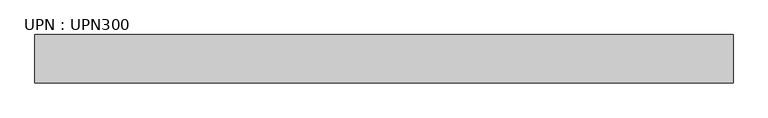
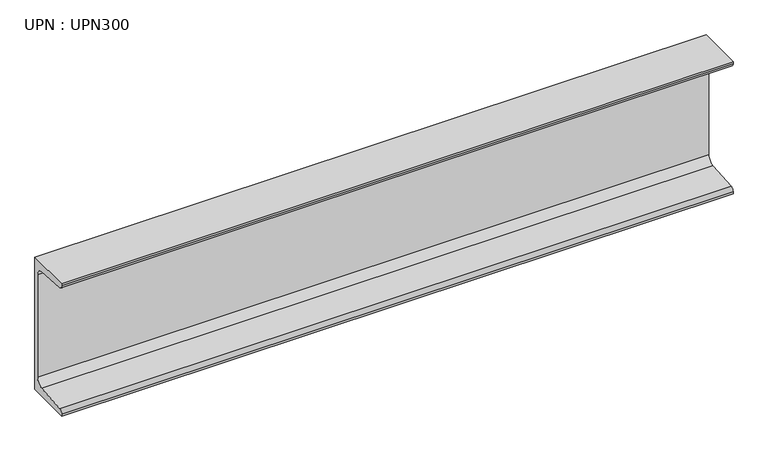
"""IFC4 building model written with IfcOpenShell, lengths in millimetres: beam geometry, UPN : UPN300."""

import ifcopenshell
import ifcopenshell.guid

model = None  # the IFC model being written
_history = None  # IfcOwnerHistory: only IFC2X3 demands one
_inside = {}  # id of a spatial element -> (the spatial element, [elements in it])
_under = {}  # id of a project, library or spatial element -> (it, [spatial elements below it])
_declared = {}  # id of a project -> (the project, [libraries it declares])
_typed = {}  # id of a type object -> (the type object, [elements of that type])
_made_of = {}  # id of a material, layer set ... -> (it, [elements and type objects made of it])


def new_model(schema):
    """Start an empty IFC model of exactly this schema.

    Asked for "IFC4X3", IfcOpenShell would pick the latest addendum, in which some entities
    have other attributes; the version numbers below select the first issue.
    IFC2X3 requires an IfcOwnerHistory on every rooted entity: one is made here for all.
    """
    global model, _history
    if schema == "IFC4X3":
        model = ifcopenshell.file(schema_version=(4, 3, 0, 0))
    else:
        model = ifcopenshell.file(schema=schema)
    _inside.clear()
    _under.clear()
    _declared.clear()
    _typed.clear()
    _made_of.clear()
    _history = None
    if model.schema == "IFC2X3":
        org = make("IfcOrganization", Name="unknown")
        user = make(
            "IfcPersonAndOrganization",
            ThePerson=make("IfcPerson", FamilyName="unknown"),
            TheOrganization=org,
        )
        app = make(
            "IfcApplication",
            ApplicationDeveloper=org,
            Version="unknown",
            ApplicationFullName="unknown",
            ApplicationIdentifier="unknown",
        )
        _history = make(
            "IfcOwnerHistory",
            OwningUser=user,
            OwningApplication=app,
            ChangeAction="ADDED",
            CreationDate=0,
        )
    return model


def make(cls, **values):
    """One entity of the class cls with the attributes given. An attribute that is None is left unset."""
    return model.create_entity(
        cls, **{name: value for name, value in values.items() if value is not None}
    )


def rooted(cls, **values):
    """An entity with a GlobalId (a new one), such as an element, a storey or a relation."""
    return make(cls, GlobalId=ifcopenshell.guid.new(), OwnerHistory=_history, **values)


def si_unit(unit_type, name, prefix=None):
    """IfcSIUnit, for example si_unit("LENGTHUNIT", "METRE", prefix="MILLI")."""
    return make("IfcSIUnit", UnitType=unit_type, Prefix=prefix, Name=name)


def assignment(units):
    """IfcUnitAssignment: the units of a project."""
    return None if units is None else make("IfcUnitAssignment", Units=units)


def point(xyz):
    """IfcCartesianPoint."""
    return None if xyz is None else make("IfcCartesianPoint", Coordinates=xyz)


def direction(xyz):
    """IfcDirection."""
    return None if xyz is None else make("IfcDirection", DirectionRatios=xyz)


def frame(location, z_axis=None, x_axis=None):
    """IfcAxis2Placement3D, a coordinate frame: its origin and axes. An axis left out is left unset."""
    return make(
        "IfcAxis2Placement3D",
        Location=point(location),
        Axis=direction(z_axis),
        RefDirection=direction(x_axis),
    )


def frame_2d(location, x_axis=None):
    """IfcAxis2Placement2D, a coordinate frame in the plane: its origin and x axis."""
    return make(
        "IfcAxis2Placement2D", Location=point(location), RefDirection=direction(x_axis)
    )


def origin():
    """The frame at (0, 0, 0) with its axes left unset."""
    return frame((0.0, 0.0, 0.0))


def place(relative_to, where):
    """IfcLocalPlacement: puts the frame where relative to a parent placement (None: the world)."""
    return make(
        "IfcLocalPlacement", PlacementRelTo=relative_to, RelativePlacement=where
    )


def context(
    kind, dimensions, precision=None, world=None, true_north=None, identifier=None
):
    """IfcGeometricRepresentationContext, for example the 3D "Model" context."""
    return make(
        "IfcGeometricRepresentationContext",
        ContextIdentifier=identifier,
        ContextType=kind,
        CoordinateSpaceDimension=dimensions,
        Precision=precision,
        WorldCoordinateSystem=world,
        TrueNorth=true_north,
    )


def project(units=None, contexts=None):
    """IfcProject with its units and contexts."""
    return rooted(
        "IfcProject",
        Name="project",
        RepresentationContexts=contexts,
        UnitsInContext=assignment(units),
    )


def spatial(cls, under=None, at=None, **own):
    """A site, building, storey or space (cls), placed at a placement, below another one or the project."""
    s = rooted(cls, ObjectPlacement=at, **own)
    if under is not None:
        _under.setdefault(under.id(), (under, []))[1].append(s)
    return s


def polyline(points):
    """IfcPolyline through the points."""
    return make("IfcPolyline", Points=[point(p) for p in points])


def circle_curve(where, radius):
    """IfcCircle in the frame where."""
    return make("IfcCircle", Position=where, Radius=radius)


def trimmed(basis, trim1, trim2, sense, master):
    """IfcTrimmedCurve: the piece of a basis curve between two trims."""
    return make(
        "IfcTrimmedCurve",
        BasisCurve=basis,
        Trim1=trim1,
        Trim2=trim2,
        SenseAgreement=sense,
        MasterRepresentation=master,
    )


def segment(curve, same_sense, transition):
    """IfcCompositeCurveSegment."""
    return make(
        "IfcCompositeCurveSegment",
        Transition=transition,
        SameSense=same_sense,
        ParentCurve=curve,
    )


def composite_curve(segments, self_intersect=None):
    """IfcCompositeCurve: segments joined end to end."""
    return make("IfcCompositeCurve", Segments=segments, SelfIntersect=self_intersect)


def outline(outer, holes=None, kind="AREA"):
    """IfcArbitraryClosedProfileDef: a profile drawn as a closed curve; with holes, ...WithVoids."""
    if holes is None:
        return make("IfcArbitraryClosedProfileDef", ProfileType=kind, OuterCurve=outer)
    return make(
        "IfcArbitraryProfileDefWithVoids",
        ProfileType=kind,
        OuterCurve=outer,
        InnerCurves=holes,
    )


def extrude(swept, where, along, depth):
    """IfcExtrudedAreaSolid: the profile swept, set in the frame where, extruded along a direction by depth."""
    return make(
        "IfcExtrudedAreaSolid",
        SweptArea=swept,
        Position=where,
        ExtrudedDirection=direction(along),
        Depth=depth,
    )


def shape(context_of_items, identifier, shape_type, items):
    """IfcShapeRepresentation: the items that make up one representation, for example the "Body"."""
    return make(
        "IfcShapeRepresentation",
        ContextOfItems=context_of_items,
        RepresentationIdentifier=identifier,
        RepresentationType=shape_type,
        Items=items,
    )


def source(mapping_origin, context_of_items, identifier, shape_type, items):
    """IfcRepresentationMap: a shape defined once, which mapped items show again and again."""
    return make(
        "IfcRepresentationMap",
        MappingOrigin=mapping_origin,
        MappedRepresentation=shape(context_of_items, identifier, shape_type, items),
    )


def transform(
    local_origin,
    x_axis=None,
    y_axis=None,
    z_axis=None,
    scale=None,
    scale2=None,
    scale3=None,
    uniform=True,
):
    """IfcCartesianTransformationOperator3D, or its non-uniform kind. x_axis, y_axis, z_axis: its Axis1, 2, 3."""
    if uniform:
        return make(
            "IfcCartesianTransformationOperator3D",
            Axis1=direction(x_axis),
            Axis2=direction(y_axis),
            LocalOrigin=point(local_origin),
            Scale=scale,
            Axis3=direction(z_axis),
        )
    return make(
        "IfcCartesianTransformationOperator3DnonUniform",
        Axis1=direction(x_axis),
        Axis2=direction(y_axis),
        LocalOrigin=point(local_origin),
        Scale=scale,
        Axis3=direction(z_axis),
        Scale2=scale2,
        Scale3=scale3,
    )


def mapped(mapping_source, mapping_target):
    """IfcMappedItem: shows the shape of a source again, moved by a transform."""
    return make(
        "IfcMappedItem", MappingSource=mapping_source, MappingTarget=mapping_target
    )


def made_of(thing, what):
    """Note that an element or type object is made of a material, layer set ...; save() writes the relation."""
    if what is not None:
        _made_of.setdefault(what.id(), (what, []))[1].append(thing)
    return thing


def element(
    cls,
    number,
    at=None,
    inside=None,
    cuts=None,
    type_object=None,
    material=None,
    context=None,
    identifier="Body",
    shape_type=None,
    held_by="IfcProductDefinitionShape",
    body=None,
    shapes=None,
    **own,
):
    """One element of the class cls, such as IfcWall. Its Tag is "e" and its number.

    at: its placement. inside: the storey or other place that contains it. cuts: it is an
    opening in that element (IfcRelVoidsElement). A single representation is given by context,
    identifier, shape_type and body (its items); several are given by shapes. held_by: the class
    of the entity that holds the representations. save() writes the other relations.
    """
    e = rooted(cls, Tag="e%d" % number, ObjectPlacement=at, **own)
    if body is not None:
        shapes = [shape(context, identifier, shape_type, body)]
    if shapes is not None:
        e.Representation = make(held_by, Representations=shapes)
    if inside is not None:
        _inside.setdefault(inside.id(), (inside, []))[1].append(e)
    if cuts is not None:
        rooted(
            "IfcRelVoidsElement", RelatingBuildingElement=cuts, RelatedOpeningElement=e
        )
    if type_object is not None:
        _typed.setdefault(type_object.id(), (type_object, []))[1].append(e)
    return made_of(e, material)


def aggregate(whole, parts):
    """IfcRelAggregates: a whole, such as a stair, and the parts it consists of."""
    return rooted("IfcRelAggregates", RelatingObject=whole, RelatedObjects=parts)


def save(model, path):
    """Write the relations noted so far, then the file.

    IfcRelAggregates (storeys below a building ...), IfcRelContainedInSpatialStructure (elements
    in a storey), IfcRelDefinesByType, IfcRelAssociatesMaterial and IfcRelDeclares: one each for
    every whole, place, type object, material and project.
    """
    for whole, parts in _under.values():
        aggregate(whole, parts)
    for where, things in _inside.values():
        rooted(
            "IfcRelContainedInSpatialStructure",
            RelatedElements=things,
            RelatingStructure=where,
        )
    for kind, things in _typed.values():
        rooted("IfcRelDefinesByType", RelatedObjects=things, RelatingType=kind)
    for what, things in _made_of.values():
        rooted("IfcRelAssociatesMaterial", RelatedObjects=things, RelatingMaterial=what)
    for by, libraries in _declared.values():
        rooted("IfcRelDeclares", RelatingContext=by, RelatedDefinitions=libraries)
    model.write(path)


def upn_upn300_880bca7f(model_context):
    return source(origin(), model_context, "Body", "SweptSolid", [
        extrude(outline(composite_curve([segment(polyline([(27.0, 150.0), (27.0, -150.0), (-73.0, -150.0), (-73.0, -145.3826224)]), True, "CONTINUOUS"), segment(trimmed(circle_curve(frame_2d((-65.0, -145.3826224)), 8.0), [point((-73.0, -145.3826224))], [point((-65.637416, -137.4080566))], False, "CARTESIAN"), True, "CONTINUOUS"), segment(polyline([(-65.637416, -137.4080566), (2.274832, -131.9797543)]), True, "CONTINUOUS"), segment(trimmed(circle_curve(frame_2d((1.0, -116.0306225)), 16.0), [point((2.274832, -131.9797543))], [point((17.0, -116.0306225))], True, "CARTESIAN"), True, "CONTINUOUS"), segment(polyline([(17.0, -116.0306225), (17.0, 116.0306225)]), True, "CONTINUOUS"), segment(trimmed(circle_curve(frame_2d((1.0, 116.0306225)), 16.0), [point((17.0, 116.0306225))], [point((2.274832, 131.9797543))], True, "CARTESIAN"), True, "CONTINUOUS"), segment(polyline([(2.274832, 131.9797543), (-65.637416, 137.4080566)]), True, "CONTINUOUS"), segment(trimmed(circle_curve(frame_2d((-65.0, 145.3826224)), 8.0), [point((-65.637416, 137.4080566))], [point((-73.0, 145.3826224))], False, "CARTESIAN"), True, "CONTINUOUS"), segment(polyline([(-73.0, 145.3826224), (-73.0, 150.0), (27.0, 150.0)]), True, "CONTINUOUS")], self_intersect=False)), frame((-720.45, 0.0, 0.0), z_axis=(1.0, 0.0, 0.0), x_axis=(0.0, 1.0, 0.0)), (0.0, 0.0, 1.0), 1441.4),
    ])


if __name__ == "__main__":
    model = new_model("IFC4")
    model_context = context("Model", 3, world=origin())
    ifc_project = project(units=[si_unit("LENGTHUNIT", "METRE", prefix="MILLI")], contexts=[model_context])
    site = spatial("IfcSite", under=ifc_project)
    building = spatial("IfcBuilding", under=site)
    placement = place(None, origin())
    upn_upn300_shape = upn_upn300_880bca7f(model_context)
    element("IfcBeam", 1, ObjectType="UPN : UPN300", at=placement, inside=building, context=model_context, shape_type="MappedRepresentation", body=[
        mapped(upn_upn300_shape, transform((0.0, 0.0, 0.0), x_axis=(1.0, 0.0, 0.0), y_axis=(0.0, 1.0, 0.0), z_axis=(0.0, 0.0, 1.0))),
    ])
    save(model, "model.ifc")
